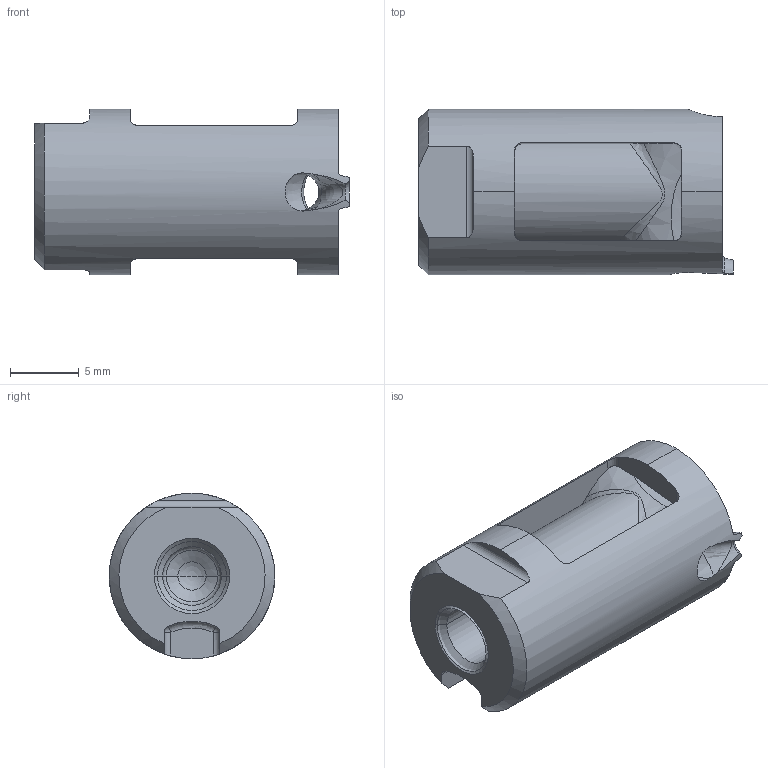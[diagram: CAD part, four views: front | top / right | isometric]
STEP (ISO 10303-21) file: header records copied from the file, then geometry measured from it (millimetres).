
FILE_DESCRIPTION((''),'2;1');
FILE_NAME('TGR12-12-S2','2004-03-24T',('tmeister'),(''),'PRO/ENGINEER BY PARAMETRIC TECHNOLOGY CORPORATION, 2002270','PRO/ENGINEER BY PARAMETRIC TECHNOLOGY CORPORATION, 2002270','');
FILE_SCHEMA(('CONFIG_CONTROL_DESIGN'));
Length unit declared in the file: millimetre
Products named in the file (1): TGR12-12-S2
Bounding box: 22.8 x 12 x 12 mm (x, y, z)
Volume: 1748.4 mm3; surface area: 1694.4 mm2
Topology: 1 solids, 2 shells, 74 faces, 268 edges, 195 vertices
Faces by surface type: plane 18, cylinder 17, cone 16, bspline 14, sphere 5, torus 4
Entity records: 5218 total; most frequent: CARTESIAN_POINT 3305, ORIENTED_EDGE 390, DIRECTION 300, EDGE_CURVE 197, B_SPLINE_CURVE_WITH_KNOTS 138, VERTEX_POINT 126, AXIS2_PLACEMENT_3D 112, EDGE_LOOP 77
